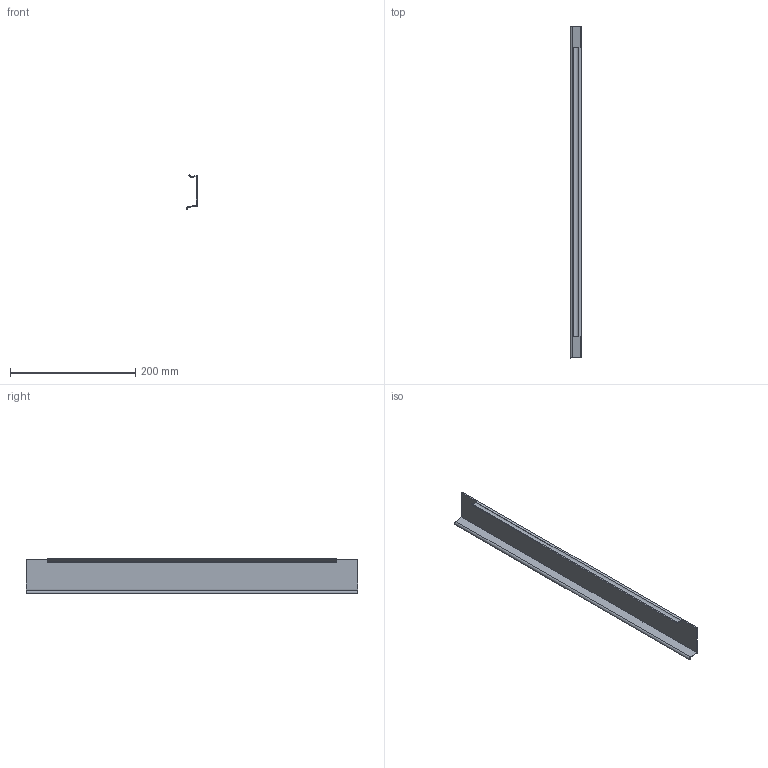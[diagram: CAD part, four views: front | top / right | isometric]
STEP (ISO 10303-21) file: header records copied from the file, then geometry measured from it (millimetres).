
FILE_DESCRIPTION (( 'STEP AP214' ), '1' );
FILE_NAME ('Sidecover_NL-550.step', '2010-09-21T06:52:14', ( 'grass' ), ( '' ), 'SwSTEP 2.0', 'SolidWorks 2010', '' );
FILE_SCHEMA (( 'AUTOMOTIVE_DESIGN' ));
Length unit declared in the file: millimetre
Products named in the file (1): Sidecover_NL-550
Bounding box: 18.14 x 529.5 x 54.9 mm (x, y, z)
Volume: 87117.4 mm3; surface area: 85128.8 mm2
Topology: 1 solids, 1 shells, 19 faces, 51 edges, 34 vertices
Faces by surface type: plane 14, cylinder 5
Entity records: 629 total; most frequent: CARTESIAN_POINT 105, ORIENTED_EDGE 102, DIRECTION 101, EDGE_CURVE 51, VECTOR 41, LINE 41, VERTEX_POINT 34, AXIS2_PLACEMENT_3D 30
